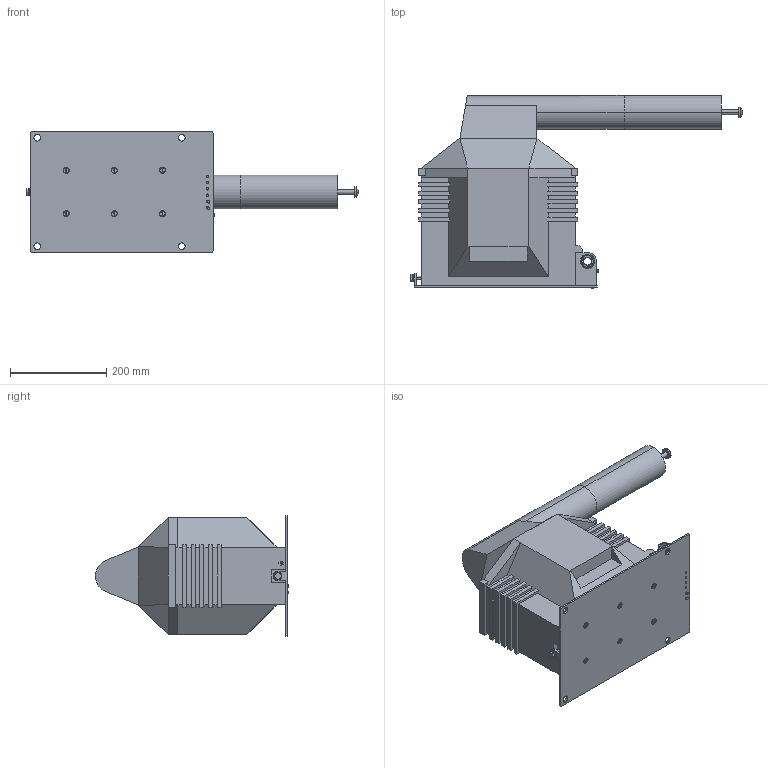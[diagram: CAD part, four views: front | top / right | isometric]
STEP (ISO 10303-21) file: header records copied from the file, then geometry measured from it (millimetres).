
FILE_DESCRIPTION (( 'STEP AP203' ), '1' );
FILE_NAME ('VTS_36_P_11.STEP', '2014-10-14T06:47:23', ( '' ), ( '' ), 'SwSTEP 2.0', 'SolidWorks 2014', '' );
FILE_SCHEMA (( 'CONFIG_CONTROL_DESIGN' ));
Length unit declared in the file: millimetre
Products named in the file (1): VTS_36_P_11
Bounding box: 689.5 x 400.9 x 250 mm (x, y, z)
Volume: 18580280.6 mm3; surface area: 895301.4 mm2
Topology: 11 solids, 13 shells, 1590 faces, 4097 edges, 2583 vertices
Faces by surface type: plane 899, cylinder 455, bspline 82, cone 59, sphere 48, torus 47
Entity records: 56301 total; most frequent: CARTESIAN_POINT 17723, ORIENTED_EDGE 8054, DIRECTION 7912, EDGE_CURVE 4027, AXIS2_PLACEMENT_3D 2697, VERTEX_POINT 2567, LINE 2518, VECTOR 2518
